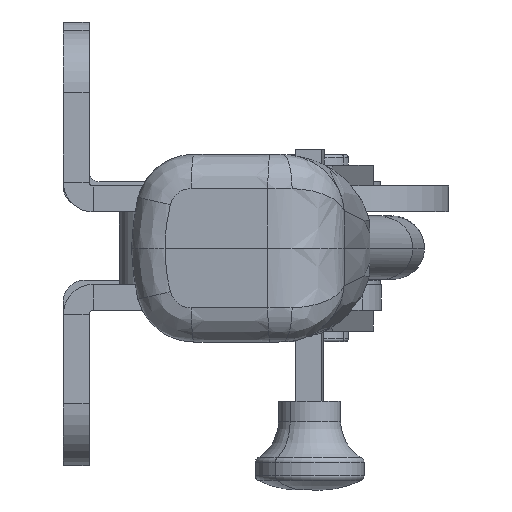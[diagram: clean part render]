
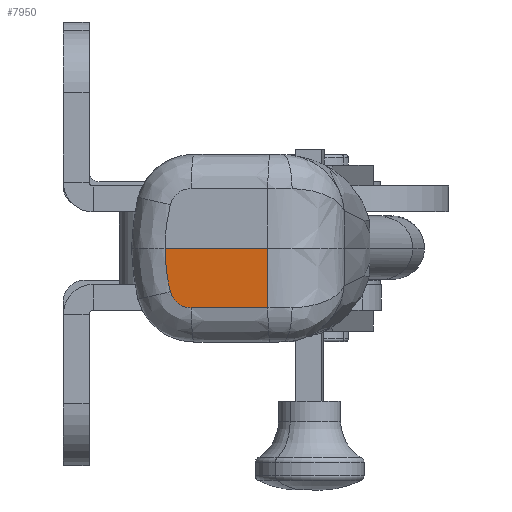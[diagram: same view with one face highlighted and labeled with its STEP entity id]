
A CAD part, front view. The second image highlights one B-rep face of the part: STEP entity #7950.
In plain terms, the highlighted planar face has unit normal (-0.07, -0.997, -0.018) as drawn and (0.018, 0, 1) by its records, which use the part's own axes.
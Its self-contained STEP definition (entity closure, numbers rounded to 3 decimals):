
#102 = PLANE ( 'NONE',  #6475 ) ;
#355 = CARTESIAN_POINT ( 'NONE',  ( 75.37, -225.531, 8.667 ) ) ;
#1135 = VERTEX_POINT ( 'NONE', #1615 ) ;
#1615 = CARTESIAN_POINT ( 'NONE',  ( 66.129, -226.833, 8.832 ) ) ;
#1743 = CARTESIAN_POINT ( 'NONE',  ( 77.615, -222.224, 8.627 ) ) ;
#2464 = EDGE_CURVE ( 'NONE', #7882, #17875, #5751, .T. ) ;
#2768 = CARTESIAN_POINT ( 'NONE',  ( 66.129, -214.303, 8.832 ) ) ;
#3022 = CARTESIAN_POINT ( 'NONE',  ( 74.955, -225.714, 8.675 ) ) ;
#3269 = CARTESIAN_POINT ( 'NONE',  ( 76.467, -224.712, 8.648 ) ) ;
#3881 = CARTESIAN_POINT ( 'NONE',  ( 66.129, -206.996, 8.832 ) ) ;
#4163 = ORIENTED_EDGE ( 'NONE', *, *, #13802, .T. ) ;
#4449 = CARTESIAN_POINT ( 'NONE',  ( 77.614, -221.754, 8.627 ) ) ;
#4523 = CARTESIAN_POINT ( 'NONE',  ( 66.129, -226.833, 8.832 ) ) ;
#4619 = VECTOR ( 'NONE', #16560, 1000. ) ;
#4689 = CARTESIAN_POINT ( 'NONE',  ( 76.134, -225.025, 8.654 ) ) ;
#4771 = VERTEX_POINT ( 'NONE', #8893 ) ;
#4929 = ORIENTED_EDGE ( 'NONE', *, *, #17043, .F. ) ;
#5431 = ORIENTED_EDGE ( 'NONE', *, *, #5752, .T. ) ;
#5488 = VERTEX_POINT ( 'NONE', #6701 ) ;
#5751 = LINE ( 'NONE', #3881, #4619 ) ;
#5752 = EDGE_CURVE ( 'NONE', #5488, #4771, #15116, .T. ) ;
#5959 = CARTESIAN_POINT ( 'NONE',  ( 71.757, -226.501, 8.732 ) ) ;
#6012 = CARTESIAN_POINT ( 'NONE',  ( 66.129, -214.303, 8.832 ) ) ;
#6115 = CARTESIAN_POINT ( 'NONE',  ( 77.243, -223.568, 8.634 ) ) ;
#6386 = CARTESIAN_POINT ( 'NONE',  ( 77.613, -206.983, 8.627 ) ) ;
#6475 = AXIS2_PLACEMENT_3D ( 'NONE', #2768, #11270, #7309 ) ;
#6701 = CARTESIAN_POINT ( 'NONE',  ( 74.513, -225.823, 8.683 ) ) ;
#7075 = FACE_OUTER_BOUND ( 'NONE', #15229, .T. ) ;
#7309 = DIRECTION ( 'NONE',  ( 1., 0., -0.018 ) ) ;
#7325 = CARTESIAN_POINT ( 'NONE',  ( 74.513, -225.823, 8.683 ) ) ;
#7362 = LINE ( 'NONE', #6012, #10011 ) ;
#7470 = VECTOR ( 'NONE', #17766, 1000. ) ;
#7882 = VERTEX_POINT ( 'NONE', #12816 ) ;
#7950 = ADVANCED_FACE ( 'NONE', ( #7075 ), #102, .T. ) ;
#8893 = CARTESIAN_POINT ( 'NONE',  ( 77.614, -221.754, 8.627 ) ) ;
#10011 = VECTOR ( 'NONE', #14890, 1000. ) ;
#10227 = ORIENTED_EDGE ( 'NONE', *, *, #10602, .T. ) ;
#10602 = EDGE_CURVE ( 'NONE', #1135, #5488, #13409, .T. ) ;
#11225 = LINE ( 'NONE', #6386, #7470 ) ;
#11270 = DIRECTION ( 'NONE',  ( 0.018, 0., 1. ) ) ;
#11405 = CARTESIAN_POINT ( 'NONE',  ( 68.962, -226.838, 8.782 ) ) ;
#11567 = CARTESIAN_POINT ( 'NONE',  ( 74.513, -225.823, 8.683 ) ) ;
#12816 = CARTESIAN_POINT ( 'NONE',  ( 77.613, -206.983, 8.627 ) ) ;
#13170 = CARTESIAN_POINT ( 'NONE',  ( 77.54, -222.681, 8.629 ) ) ;
#13409 = B_SPLINE_CURVE_WITH_KNOTS ( 'NONE', 3, ( #4523, #11405, #5959, #7325 ), .UNSPECIFIED., .F., .F., ( 4, 4 ), ( 0., 1. ), .UNSPECIFIED. ) ;
#13802 = EDGE_CURVE ( 'NONE', #4771, #7882, #11225, .T. ) ;
#14394 = CARTESIAN_POINT ( 'NONE',  ( 77.028, -223.975, 8.638 ) ) ;
#14890 = DIRECTION ( 'NONE',  ( 0., 1., 0. ) ) ;
#14936 = ORIENTED_EDGE ( 'NONE', *, *, #2464, .T. ) ;
#15116 = B_SPLINE_CURVE_WITH_KNOTS ( 'NONE', 3, ( #11567, #3022, #355, #4689, #3269, #14394, #6115, #13170, #1743, #4449 ), .UNSPECIFIED., .F., .F., ( 4, 2, 2, 2, 4 ), ( 0., 0.25, 0.5, 0.75, 1. ), .UNSPECIFIED. ) ;
#15229 = EDGE_LOOP ( 'NONE', ( #14936, #4929, #10227, #5431, #4163 ) ) ;
#15596 = CARTESIAN_POINT ( 'NONE',  ( 66.129, -206.996, 8.832 ) ) ;
#16560 = DIRECTION ( 'NONE',  ( -1., -0.001, 0.018 ) ) ;
#17043 = EDGE_CURVE ( 'NONE', #1135, #17875, #7362, .T. ) ;
#17766 = DIRECTION ( 'NONE',  ( 0., 1., 0. ) ) ;
#17875 = VERTEX_POINT ( 'NONE', #15596 ) ;
